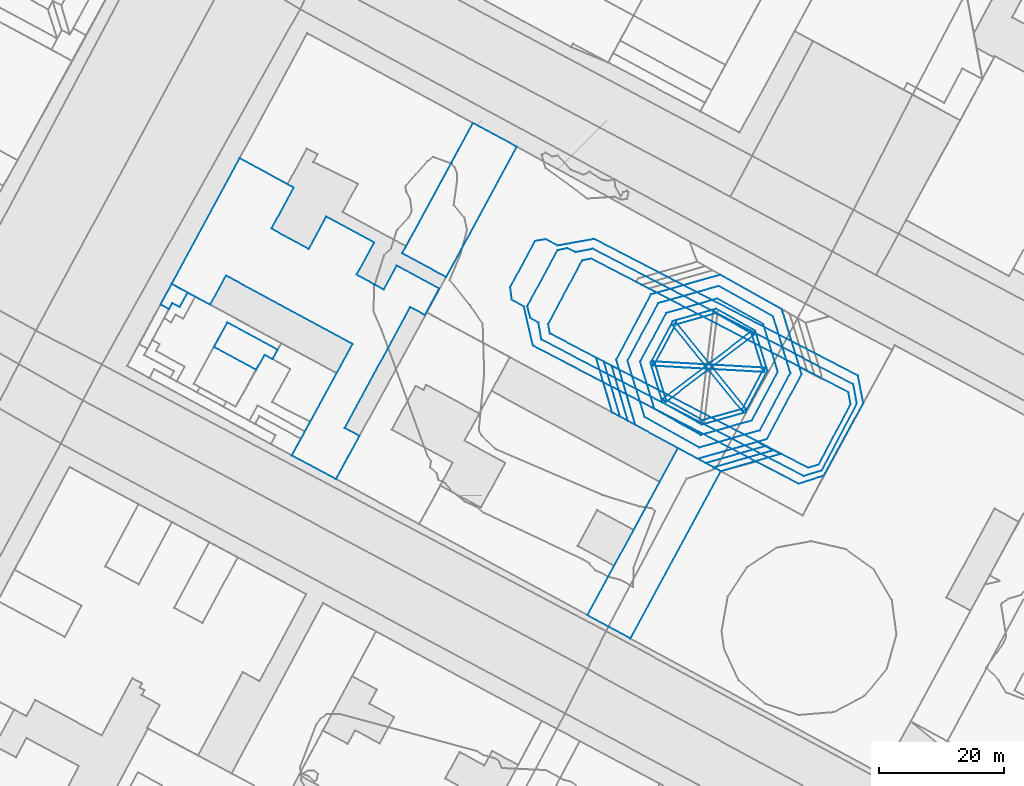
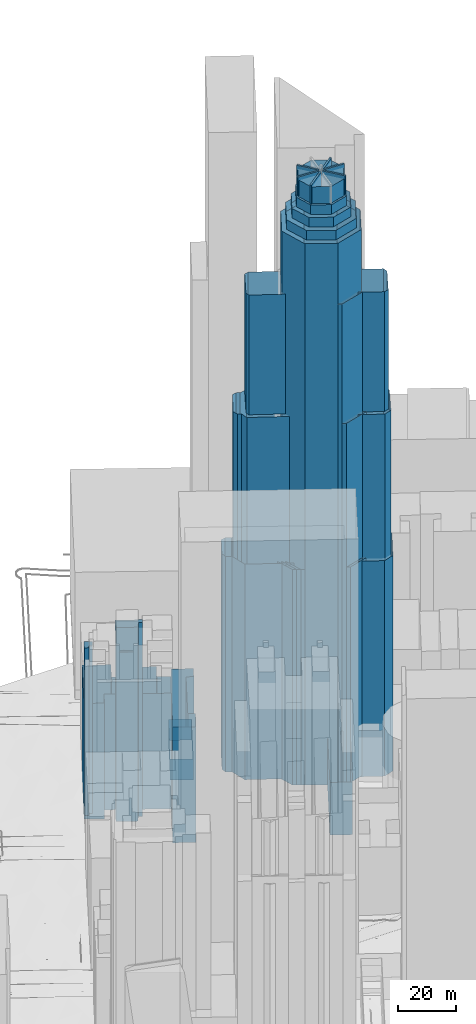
# Not in any storey, part 24 of 76: 22 walls.
"""IFC2X3 model written with IfcOpenShell, lengths in metres."""

from ifc_helpers import new_model, si_unit, frame, origin_with_axes, place, context, subcontext, project, faceted_brep, element, save


model = new_model("IFC2X3")

# Units and contexts
model_context = context("Model", 3, precision=1e-05, world=origin_with_axes())
body_context = subcontext(model_context, "Body", "Model", "MODEL_VIEW")
ifc_project = project(units=[si_unit("AREAUNIT", "SQUARE_METRE"), si_unit("LENGTHUNIT", "METRE")], contexts=[model_context])

# Walls
wall_1_placement = place(None, frame((127.1263243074, 293.3318134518, 21.914507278), z_axis=(0.0, 0.0, 1.0), x_axis=(1.0, 0.0, 0.0)))
element("IfcWall", 1, at=wall_1_placement, Name="Mur 0", context=body_context, shape_type="Brep", body=[
    faceted_brep([(6.7281427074, -3.6632865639, 81.0), (0.0, 0.0, 81.0), (6.7281427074, -3.6632865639, 0.0), (0.0, 0.0, 0.0), (8.1103198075, -1.2935485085, 81.0), (8.1103198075, -1.2935485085, 0.0), (9.3591624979, -1.9784795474, 81.0), (9.3591624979, -1.9784795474, 0.0), (10.1940852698, -0.4588713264, 81.0), (10.1940852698, -0.4588713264, 0.0), (2.1408822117, 3.9106630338, 81.0), (2.1408822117, 3.9106630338, 0.0)], [[[0, 1, 2]], [[2, 1, 3]], [[4, 0, 5]], [[5, 0, 2]], [[6, 4, 7]], [[7, 4, 5]], [[8, 6, 9]], [[9, 6, 7]], [[1, 10, 3]], [[3, 10, 11]], [[10, 8, 11]], [[11, 8, 9]]]),
])
wall_2_placement = place(None, frame((120.3576665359, 303.3895337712, 19.1918452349), z_axis=(0.0, 0.0, 1.0), x_axis=(1.0, 0.0, 0.0)))
element("IfcWall", 2, at=wall_2_placement, Name="Mur 0", context=body_context, shape_type="Brep", body=[
    faceted_brep([(6.1586360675, -3.3257392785, 48.2999992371), (0.0, 0.0, 48.2999992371), (6.1586360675, -3.3257392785, 0.0), (0.0, 0.0, 0.0), (8.6958773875, 1.3444821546, 48.2999992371), (8.6958773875, 1.3444821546, 0.0), (28.9305528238, -9.6114631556, 48.2999992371), (28.9305528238, -9.6114631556, 0.0), (19.2188748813, -27.4213141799, 48.2999992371), (19.2188748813, -27.4213141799, 0.0), (26.294638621, -31.2137773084, 48.2999992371), (26.294638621, -31.2137773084, 0.0), (30.029914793, -24.3091752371, 48.2999992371), (30.029914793, -24.3091752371, 0.0), (27.6853086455, -23.0374588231, 48.2999992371), (27.6853086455, -23.0374588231, 0.0), (38.1557868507, -3.6977675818, 48.2999992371), (38.1557868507, -3.6977675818, 0.0), (40.5002598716, -4.9583798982, 48.2999992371), (40.5002598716, -4.9583798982, 0.0), (42.7894344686, -0.7351197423, 48.2999992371), (42.7894344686, -0.7351197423, 0.0), (36.0020774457, 2.9385544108, 48.2999992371), (36.0020774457, 2.9385544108, 0.0), (33.927701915, -0.8825259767, 48.2999992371), (33.927701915, -0.8825259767, 0.0), (29.5868752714, 1.4651129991, 48.2999992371), (29.5868752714, 1.4651129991, 0.0), (32.3883820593, 6.6380157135, 48.2999992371), (32.3883820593, 6.6380157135, 0.0), (24.7261469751, 10.7789291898, 48.2999992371), (24.7261469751, 10.7789291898, 0.0), (21.9330768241, 5.6061274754, 48.2999992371), (21.9330768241, 5.6061274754, 0.0), (15.9697266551, 8.8342025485, 48.2999992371), (15.9697266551, 8.8342025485, 0.0), (19.5314868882, 15.4148184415, 48.2999992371), (19.5314868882, 15.4148184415, 0.0), (10.8837545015, 20.0994069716, 48.2999992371), (10.8837545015, 20.0994069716, 0.0)], [[[0, 1, 2]], [[2, 1, 3]], [[4, 0, 5]], [[5, 0, 2]], [[6, 4, 7]], [[7, 4, 5]], [[8, 6, 9]], [[9, 6, 7]], [[10, 8, 11]], [[11, 8, 9]], [[12, 10, 13]], [[13, 10, 11]], [[14, 12, 15]], [[15, 12, 13]], [[16, 14, 17]], [[17, 14, 15]], [[18, 16, 19]], [[19, 16, 17]], [[20, 18, 21]], [[21, 18, 19]], [[22, 20, 23]], [[23, 20, 21]], [[24, 22, 25]], [[25, 22, 23]], [[26, 24, 27]], [[27, 24, 25]], [[28, 26, 29]], [[29, 26, 27]], [[30, 28, 31]], [[31, 28, 29]], [[32, 30, 33]], [[33, 30, 31]], [[34, 32, 35]], [[35, 32, 33]], [[36, 34, 37]], [[37, 34, 35]], [[1, 38, 3]], [[3, 38, 39]], [[38, 36, 39]], [[39, 36, 37]]]),
])
wall_3_placement = place(None, frame((190.7505875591, 290.2965312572, 21.0925550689), z_axis=(0.0, 0.0, 1.0), x_axis=(1.0, 0.0, 0.0)))
element("IfcWall", 3, at=wall_3_placement, Name="Mur 0", context=body_context, shape_type="Brep", body=[
    faceted_brep([(2.5927444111, -8.8183526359, 90.0), (0.0, 0.0, 90.0), (2.5927444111, -8.8183526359, 0.0), (0.0, 0.0, 0.0), (3.7905656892, -9.4705605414, 90.0), (3.7905656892, -9.4705605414, 0.0), (1.2400209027, -0.6517176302, 90.0), (1.2400209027, -0.6517176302, 0.0)], [[[0, 1, 2]], [[2, 1, 3]], [[4, 0, 5]], [[5, 0, 2]], [[1, 6, 3]], [[3, 6, 7]], [[6, 4, 7]], [[7, 4, 5]]]),
])
wall_4_placement = place(None, frame((189.5021266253, 290.948150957, 21.1265616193), z_axis=(0.0, 0.0, 1.0), x_axis=(1.0, 0.0, 0.0)))
element("IfcWall", 4, at=wall_4_placement, Name="Mur 0", context=body_context, shape_type="Brep", body=[
    faceted_brep([(2.5839152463, -8.7851489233, 90.0), (0.0, 0.0, 90.0), (2.5839152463, -8.7851489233, 0.0), (0.0, 0.0, 0.0), (3.8412053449, -9.4699723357, 90.0), (3.8412053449, -9.4699723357, 0.0), (1.2484609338, -0.6516196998, 90.0), (1.2484609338, -0.6516196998, 0.0)], [[[0, 1, 2]], [[2, 1, 3]], [[4, 0, 5]], [[5, 0, 2]], [[1, 6, 3]], [[3, 6, 7]], [[6, 4, 7]], [[7, 4, 5]]]),
])
wall_5_placement = place(None, frame((188.2449675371, 291.6218742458, 21.1651408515), z_axis=(0.0, 0.0, 1.0), x_axis=(1.0, 0.0, 0.0)))
element("IfcWall", 5, at=wall_5_placement, Name="Mur 0", context=body_context, shape_type="Brep", body=[
    faceted_brep([(2.5839135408, -8.7851493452, 90.0), (0.0, 0.0, 90.0), (2.5839135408, -8.7851493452, 0.0), (0.0, 0.0, 0.0), (3.8410743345, -9.4588722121, 90.0), (3.8410743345, -9.4588722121, 0.0), (1.2571590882, -0.6737232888, 90.0), (1.2571590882, -0.6737232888, 0.0)], [[[0, 1, 2]], [[2, 1, 3]], [[4, 0, 5]], [[5, 0, 2]], [[1, 6, 3]], [[3, 6, 7]], [[6, 4, 7]], [[7, 4, 5]]]),
])
wall_6_placement = place(None, frame((204.4971683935, 275.4350208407, 21.6849039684), z_axis=(0.0, 0.0, 1.0), x_axis=(1.0, 0.0, 0.0)))
element("IfcWall", 6, at=wall_6_placement, Name="Mur 0", context=body_context, shape_type="Brep", body=[
    faceted_brep([(1.2741729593, -0.6846250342, 200.0), (0.0, 0.0, 200.0), (1.2741729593, -0.6846250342, 0.0), (0.0, 0.0, 0.0), (10.7814669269, 2.0238691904, 200.0), (10.7814669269, 2.0238691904, 0.0), (9.490542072, 2.6971955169, 200.0), (9.490542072, 2.6971955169, 0.0)], [[[0, 1, 2]], [[2, 1, 3]], [[4, 0, 5]], [[5, 0, 2]], [[1, 6, 3]], [[3, 6, 7]], [[6, 4, 7]], [[7, 4, 5]]]),
])
wall_7_placement = place(None, frame((205.7713413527, 274.7503958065, 21.7965636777), z_axis=(0.0, 0.0, 1.0), x_axis=(1.0, 0.0, 0.0)))
element("IfcWall", 7, at=wall_7_placement, Name="Mur 0", context=body_context, shape_type="Brep", body=[
    faceted_brep([(1.2572926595, -0.6848211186, 150.0), (0.0, 0.0, 150.0), (1.2572926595, -0.6848211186, 0.0), (0.0, 0.0, 0.0), (10.7897787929, 2.0350699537, 150.0), (10.7897787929, 2.0350699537, 0.0), (9.5072939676, 2.7084942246, 150.0), (9.5072939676, 2.7084942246, 0.0)], [[[0, 1, 2]], [[2, 1, 3]], [[4, 0, 5]], [[5, 0, 2]], [[1, 6, 3]], [[3, 6, 7]], [[6, 4, 7]], [[7, 4, 5]]]),
])
wall_8_placement = place(None, frame((207.0286340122, 274.0655746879, 21.8143831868), z_axis=(0.0, 0.0, 1.0), x_axis=(1.0, 0.0, 0.0)))
element("IfcWall", 8, at=wall_8_placement, Name="Mur 0", context=body_context, shape_type="Brep", body=[
    faceted_brep([(1.1722447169, -0.630298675, 90.0), (0.0, 0.0, 90.0), (1.1722447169, -0.630298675, 0.0), (0.0, 0.0, 0.0), (10.6620135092, 2.1335061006, 90.0), (10.6620135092, 2.1335061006, 0.0), (9.5324861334, 2.7198910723, 90.0), (9.5324861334, 2.7198910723, 0.0)], [[[0, 1, 2]], [[2, 1, 3]], [[4, 0, 5]], [[5, 0, 2]], [[1, 6, 3]], [[3, 6, 7]], [[6, 4, 7]], [[7, 4, 5]]]),
])
wall_9_placement = place(None, frame((193.2816809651, 291.1364254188, 247.2874462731), z_axis=(0.0, 0.0, 1.0), x_axis=(1.0, 0.0, 0.0)))
element("IfcWall", 9, at=wall_9_placement, Name="Mur 0", context=body_context, shape_type="Brep", body=[
    faceted_brep([(2.7471243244, -9.0274996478, 4.0), (0.0, 0.0, 4.0), (2.7471243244, -9.0274996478, 0.0), (0.0, 0.0, 0.0), (11.4476540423, -13.8890368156, 4.0), (11.4476540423, -13.8890368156, 0.0), (21.1319324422, -11.1562809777, 4.0), (21.1319324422, -11.1562809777, 0.0), (26.0391907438, -1.9620488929, 4.0), (26.0391907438, -1.9620488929, 0.0), (23.2920400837, 7.0654426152, 4.0), (23.2920400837, 7.0654426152, 0.0), (14.5913971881, 11.9380665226, 4.0), (14.5913971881, 11.9380665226, 0.0), (4.9071471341, 9.2053187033, 4.0), (4.9071471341, 9.2053187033, 0.0)], [[[0, 1, 2]], [[2, 1, 3]], [[4, 0, 5]], [[5, 0, 2]], [[6, 4, 7]], [[7, 4, 5]], [[8, 6, 9]], [[9, 6, 7]], [[10, 8, 11]], [[11, 8, 9]], [[12, 10, 13]], [[13, 10, 11]], [[1, 14, 3]], [[3, 14, 15]], [[14, 12, 15]], [[15, 12, 13]]]),
])
wall_10_placement = place(None, frame((200.4835497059, 296.8268073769, 260.0739856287), z_axis=(0.0, 0.0, 1.0), x_axis=(1.0, 0.0, 0.0)))
element("IfcWall", 10, at=wall_10_placement, Name="Mur 0", context=body_context, shape_type="Brep", body=[
    faceted_brep([(11.1849786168, -13.8032627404, 8.0), (0.0, 0.0, 8.0), (11.1849786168, -13.8032627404, 0.0), (0.0, 0.0, 0.0), (11.7370008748, -13.3638547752, 8.0), (11.7370008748, -13.3638547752, 0.0), (0.5434525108, 0.450409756, 8.0), (0.5434525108, 0.450409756, 0.0)], [[[0, 1, 2]], [[2, 1, 3]], [[4, 0, 5]], [[5, 0, 2]], [[1, 6, 3]], [[3, 6, 7]], [[6, 4, 7]], [[7, 4, 5]]]),
])
wall_11_placement = place(None, frame((198.9155746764, 285.0290795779, 259.6639688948), z_axis=(0.0, 0.0, 1.0), x_axis=(1.0, 0.0, 0.0)))
element("IfcWall", 11, at=wall_11_placement, Name="Mur 0", context=body_context, shape_type="Brep", body=[
    faceted_brep([(0.4284669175, -0.5501306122, 8.0), (0.0, 0.0, 8.0), (0.4284669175, -0.5501306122, 0.0), (0.0, 0.0, 0.0), (14.5773925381, 10.2392690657, 8.0), (14.5773925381, 10.2392690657, 0.0), (14.1487960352, 10.8004996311, 8.0), (14.1487960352, 10.8004996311, 0.0)], [[[0, 1, 2]], [[2, 1, 3]], [[4, 0, 5]], [[5, 0, 2]], [[1, 6, 3]], [[3, 6, 7]], [[6, 4, 7]], [[7, 4, 5]]]),
])
wall_12_placement = place(None, frame((197.6677213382, 290.7100275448, 259.7077898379), z_axis=(0.0, 0.0, 1.0), x_axis=(1.0, 0.0, 0.0)))
element("IfcWall", 12, at=wall_12_placement, Name="Mur 0", context=body_context, shape_type="Brep", body=[
    faceted_brep([(1.7900951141, -5.8522788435, 7.0), (0.0, 0.0, 7.0), (1.7900951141, -5.8522788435, 0.0), (0.0, 0.0, 0.0), (7.5763793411, -9.0934656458, 7.0), (7.5763793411, -9.0934656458, 0.0), (13.9625274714, -7.2983490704, 7.0), (13.9625274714, -7.2983490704, 0.0), (17.2671074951, -1.1092659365, 7.0), (17.2671074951, -1.1092659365, 0.0), (15.47687195, 4.7541101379, 7.0), (15.47687195, 4.7541101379, 0.0), (9.6905946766, 7.9952907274, 7.0), (9.6905946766, 7.9952907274, 0.0), (3.3045880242, 6.1890768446, 7.0), (3.3045880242, 6.1890768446, 0.0)], [[[0, 1, 2]], [[2, 1, 3]], [[4, 0, 5]], [[5, 0, 2]], [[6, 4, 7]], [[7, 4, 5]], [[8, 6, 9]], [[9, 6, 7]], [[10, 8, 11]], [[11, 8, 9]], [[12, 10, 13]], [[13, 10, 11]], [[1, 14, 3]], [[3, 14, 15]], [[14, 12, 15]], [[15, 12, 13]]]),
])
wall_13_placement = place(None, frame((197.3599497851, 290.3178698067, 260.1111568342), z_axis=(0.0, 0.0, 1.0), x_axis=(1.0, 0.0, 0.0)))
element("IfcWall", 13, at=wall_13_placement, Name="Mur 0", context=body_context, shape_type="Brep", body=[
    faceted_brep([(17.7976823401, -1.0031756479, 8.0), (0.0, 0.0, 8.0), (17.7976823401, -1.0031756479, 0.0), (0.0, 0.0, 0.0), (17.8317499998, -0.3033371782, 8.0), (17.8317499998, -0.3033371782, 0.0), (0.0425095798, 0.6999365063, 8.0), (0.0425095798, 0.6999365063, 0.0)], [[[0, 1, 2]], [[2, 1, 3]], [[4, 0, 5]], [[5, 0, 2]], [[1, 6, 3]], [[3, 6, 7]], [[6, 4, 7]], [[7, 4, 5]]]),
])
wall_14_placement = place(None, frame((196.9493964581, 290.7793907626, 255.631798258), z_axis=(0.0, 0.0, 1.0), x_axis=(1.0, 0.0, 0.0)))
element("IfcWall", 14, at=wall_14_placement, Name="Mur 0", context=body_context, shape_type="Brep", body=[
    faceted_brep([(1.9480859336, -6.3722479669, 4.0), (0.0, 0.0, 4.0), (1.9480859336, -6.3722479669, 0.0), (0.0, 0.0, 0.0), (8.2102521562, -9.8854576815, 4.0), (8.2102521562, -9.8854576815, 0.0), (15.134770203, -7.9286484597, 4.0), (15.134770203, -7.9286484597, 0.0), (18.7037575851, -1.2479906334, 4.0), (18.7037575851, -1.2479906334, 0.0), (16.7555291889, 5.1353539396, 4.0), (16.7555291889, 5.1353539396, 0.0), (10.4935002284, 8.6374556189, 4.0), (10.4935002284, 8.6374556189, 0.0), (3.5688676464, 6.6917512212, 4.0), (3.5688676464, 6.6917512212, 0.0)], [[[0, 1, 2]], [[2, 1, 3]], [[4, 0, 5]], [[5, 0, 2]], [[6, 4, 7]], [[7, 4, 5]], [[8, 6, 9]], [[9, 6, 7]], [[10, 8, 11]], [[11, 8, 9]], [[12, 10, 13]], [[13, 10, 11]], [[1, 14, 3]], [[3, 14, 15]], [[14, 12, 15]], [[15, 12, 13]]]),
])
wall_15_placement = place(None, frame((195.292913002, 290.9488680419, 251.4761187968), z_axis=(0.0, 0.0, 1.0), x_axis=(1.0, 0.0, 0.0)))
element("IfcWall", 15, at=wall_15_placement, Name="Mur 0", context=body_context, shape_type="Brep", body=[
    faceted_brep([(2.308204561, -7.5782069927, 4.0), (0.0, 0.0, 4.0), (2.308204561, -7.5782069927, 0.0), (0.0, 0.0, 0.0), (9.6747051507, -11.6891998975, 4.0), (9.6747051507, -11.6891998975, 0.0), (17.8446396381, -9.3959413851, 4.0), (17.8446396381, -9.3959413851, 0.0), (22.0165962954, -1.5758398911, 4.0), (22.0165962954, -1.5758398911, 0.0), (19.7083730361, 6.0023613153, 4.0), (19.7083730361, 6.0023613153, 0.0), (12.3418838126, 10.1133441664, 4.0), (12.3418838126, 10.1133441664, 0.0), (4.1720986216, 7.8089905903, 4.0), (4.1720986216, 7.8089905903, 0.0)], [[[0, 1, 2]], [[2, 1, 3]], [[4, 0, 5]], [[5, 0, 2]], [[6, 4, 7]], [[7, 4, 5]], [[8, 6, 9]], [[9, 6, 7]], [[10, 8, 11]], [[11, 8, 9]], [[12, 10, 13]], [[13, 10, 11]], [[1, 14, 3]], [[3, 14, 15]], [[14, 12, 15]], [[15, 12, 13]]]),
])
wall_16_placement = place(None, frame((191.4815843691, 291.3153359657, 21.0925550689), z_axis=(0.0, 0.0, 1.0), x_axis=(1.0, 0.0, 0.0)))
element("IfcWall", 16, at=wall_16_placement, Name="Mur 0", context=body_context, shape_type="Brep", body=[
    faceted_brep([(3.0595688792, -10.4893652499, 226.0), (0.0, 0.0, 226.0), (3.0595688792, -10.4893652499, 0.0), (0.0, 0.0, 0.0), (13.0155840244, -15.880315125, 226.0), (13.0155840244, -15.880315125, 0.0), (24.0711095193, -12.7430327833, 226.0), (24.0711095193, -12.7430327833, 0.0), (29.6392561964, -2.3087624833, 226.0), (29.6392561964, -2.3087624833, 0.0), (26.4887462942, 8.0130012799, 226.0), (26.4887462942, 8.0130012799, 0.0), (16.6070361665, 13.549126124, 226.0), (16.6070361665, 13.549126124, 0.0), (5.568169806, 10.4342520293, 226.0), (5.568169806, 10.4342520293, 0.0)], [[[0, 1, 2]], [[2, 1, 3]], [[4, 0, 5]], [[5, 0, 2]], [[6, 4, 7]], [[7, 4, 5]], [[8, 6, 9]], [[9, 6, 7]], [[10, 8, 11]], [[11, 8, 9]], [[12, 10, 13]], [[13, 10, 11]], [[1, 14, 3]], [[3, 14, 15]], [[14, 12, 15]], [[15, 12, 13]]]),
])
wall_17_placement = place(None, frame((174.515196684, 302.8642732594, 21.3701181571), z_axis=(0.0, 0.0, 1.0), x_axis=(1.0, 0.0, 0.0)))
element("IfcWall", 17, at=wall_17_placement, Name="Mur 0", context=body_context, shape_type="Brep", body=[
    faceted_brep([(0.2596837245, -2.0064896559, 90.0), (0.0, 0.0, 90.0), (0.2596837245, -2.0064896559, 0.0), (0.0, 0.0, 0.0), (2.2055322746, -3.1051971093, 90.0), (2.2055322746, -3.1051971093, 0.0), (3.6457642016, -9.3612290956, 90.0), (3.6457642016, -9.3612290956, 0.0), (46.1429906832, -31.4157509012, 90.0), (46.1429906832, -31.4157509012, 0.0), (50.1375301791, -30.1147343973, 90.0), (50.1375301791, -30.1147343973, 0.0), (56.4684852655, -18.4947444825, 90.0), (56.4684852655, -18.4947444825, 0.0), (55.6076025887, -14.152673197, 90.0), (55.6076025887, -14.152673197, 0.0), (13.4416773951, 7.7280088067, 90.0), (13.4416773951, 7.7280088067, 0.0), (7.5533148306, 6.6825504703, 90.0), (7.5533148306, 6.6825504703, 0.0), (5.6591417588, 7.693039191, 90.0), (5.6591417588, 7.693039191, 0.0), (3.9490017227, 7.3956015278, 90.0), (3.9490017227, 7.3956015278, 0.0)], [[[0, 1, 2]], [[2, 1, 3]], [[4, 0, 5]], [[5, 0, 2]], [[6, 4, 7]], [[7, 4, 5]], [[8, 6, 9]], [[9, 6, 7]], [[10, 8, 11]], [[11, 8, 9]], [[12, 10, 13]], [[13, 10, 11]], [[14, 12, 15]], [[15, 12, 13]], [[16, 14, 17]], [[17, 14, 15]], [[18, 16, 19]], [[19, 16, 17]], [[20, 18, 21]], [[21, 18, 19]], [[1, 22, 3]], [[3, 22, 23]], [[22, 20, 23]], [[23, 20, 21]]]),
])
wall_18_placement = place(None, frame((177.2431205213, 299.8428648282, 43.5388270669), z_axis=(0.0, 0.0, 1.0), x_axis=(1.0, 0.0, 0.0)))
element("IfcWall", 18, at=wall_18_placement, Name="Mur 0", context=body_context, shape_type="Brep", body=[
    faceted_brep([(0.5291270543, -1.9478459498, 128.0), (0.0, 0.0, 128.0), (0.5291270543, -1.9478459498, 0.0), (0.0, 0.0, 0.0), (1.7866712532, -2.6548732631, 128.0), (1.7866712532, -2.6548732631, 0.0), (2.2654927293, -5.358257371, 128.0), (2.2654927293, -5.358257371, 0.0), (44.1689292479, -27.1643259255, 128.0), (44.1689292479, -27.1643259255, 0.0), (47.0793212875, -26.2756005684, 128.0), (47.0793212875, -26.2756005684, 0.0), (52.7120119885, -15.5852207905, 128.0), (52.7120119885, -15.5852207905, 0.0), (52.1358092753, -12.4943931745, 128.0), (52.1358092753, -12.4943931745, 0.0), (10.4871850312, 9.1813647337, 128.0), (10.4871850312, 9.1813647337, 0.0), (7.7499180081, 8.6499384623, 128.0), (7.7499180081, 8.6499384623, 0.0), (6.3919957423, 9.2780819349, 128.0), (6.3919957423, 9.2780819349, 0.0), (4.8257265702, 8.9490093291, 128.0), (4.8257265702, 8.9490093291, 0.0)], [[[0, 1, 2]], [[2, 1, 3]], [[4, 0, 5]], [[5, 0, 2]], [[6, 4, 7]], [[7, 4, 5]], [[8, 6, 9]], [[9, 6, 7]], [[10, 8, 11]], [[11, 8, 9]], [[12, 10, 13]], [[13, 10, 11]], [[14, 12, 15]], [[15, 12, 13]], [[16, 14, 17]], [[17, 14, 15]], [[18, 16, 19]], [[19, 16, 17]], [[20, 18, 21]], [[21, 18, 19]], [[1, 22, 3]], [[3, 22, 23]], [[22, 20, 23]], [[23, 20, 21]]]),
])
wall_19_placement = place(None, frame((180.6026452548, 296.9509249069, 171.5778831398), z_axis=(0.0, 0.0, 1.0), x_axis=(1.0, 0.0, 0.0)))
element("IfcWall", 19, at=wall_19_placement, Name="Mur 0", context=body_context, shape_type="Brep", body=[
    faceted_brep([(0.2620602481, -1.4846557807, 50.0), (0.0, 0.0, 50.0), (0.2620602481, -1.4846557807, 0.0), (0.0, 0.0, 0.0), (41.5201615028, -22.9651549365, 50.0), (41.5201615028, -22.9651549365, 0.0), (43.2446066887, -22.4454958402, 50.0), (43.2446066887, -22.4454958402, 0.0), (48.3487420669, -12.7604679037, 50.0), (48.3487420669, -12.7604679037, 0.0), (47.9978790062, -10.8993697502, 50.0), (47.9978790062, -10.8993697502, 0.0), (6.8926514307, 10.5051540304, 50.0), (6.8926514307, 10.5051540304, 0.0), (5.3850764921, 10.2100697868, 50.0), (5.3850764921, 10.2100697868, 0.0)], [[[0, 1, 2]], [[2, 1, 3]], [[4, 0, 5]], [[5, 0, 2]], [[6, 4, 7]], [[7, 4, 5]], [[8, 6, 9]], [[9, 6, 7]], [[10, 8, 11]], [[11, 8, 9]], [[12, 10, 13]], [[13, 10, 11]], [[1, 14, 3]], [[3, 14, 15]], [[14, 12, 15]], [[15, 12, 13]]]),
])
wall_20_placement = place(None, frame((186.8584894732, 250.4163826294, 21.3845065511), z_axis=(0.0, 0.0, 1.0), x_axis=(1.0, 0.0, 0.0)))
element("IfcWall", 20, at=wall_20_placement, Name="Mur 0", context=body_context, shape_type="Brep", body=[
    faceted_brep([(6.8724714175, -3.7281693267, 22.0), (0.0, 0.0, 22.0), (6.8724714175, -3.7281693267, 0.0), (0.0, 0.0, 0.0), (21.3423892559, 23.0188933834, 22.0), (21.3423892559, 23.0188933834, 0.0), (14.4700635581, 26.7359484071, 22.0), (14.4700635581, 26.7359484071, 0.0)], [[[0, 1, 2]], [[2, 1, 3]], [[4, 0, 5]], [[5, 0, 2]], [[1, 6, 3]], [[3, 6, 7]], [[6, 4, 7]], [[7, 4, 5]]]),
])
wall_21_placement = place(None, frame((157.2485817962, 308.2924157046, 19.5637782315), z_axis=(0.0, 0.0, 1.0), x_axis=(1.0, 0.0, 0.0)))
element("IfcWall", 21, at=wall_21_placement, Name="Mur 0", context=body_context, shape_type="Brep", body=[
    faceted_brep([(7.0337999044, -3.8151381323, 8.8000001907), (0.0, 0.0, 8.8000001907), (7.0337999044, -3.8151381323, 0.0), (0.0, 0.0, 0.0), (18.3222304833, 17.0439945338, 8.8000001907), (18.3222304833, 17.0439945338, 0.0), (11.288572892, 20.8480210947, 8.8000001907), (11.288572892, 20.8480210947, 0.0)], [[[0, 1, 2]], [[2, 1, 3]], [[4, 0, 5]], [[5, 0, 2]], [[1, 6, 3]], [[3, 6, 7]], [[6, 4, 7]], [[7, 4, 5]]]),
])
wall_22_placement = place(None, frame((118.5811882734, 300.0826284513, 23.3439021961), z_axis=(0.0, 0.0, 1.0), x_axis=(1.0, 0.0, 0.0)))
element("IfcWall", 22, at=wall_22_placement, Name="Mur 0", context=body_context, shape_type="Brep", body=[
    faceted_brep([(1.3506384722, -0.7281601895, 70.0), (0.0, 0.0, 70.0), (1.3506384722, -0.7281601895, 0.0), (0.0, 0.0, 0.0), (1.8710248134, 0.2548837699, 70.0), (1.8710248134, 0.2548837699, 0.0), (3.0602671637, -0.3863330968, 70.0), (3.0602671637, -0.3863330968, 0.0), (4.3418081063, 1.9267222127, 70.0), (4.3418081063, 1.9267222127, 0.0), (1.7764782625, 3.3069053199, 70.0), (1.7764782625, 3.3069053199, 0.0)], [[[0, 1, 2]], [[2, 1, 3]], [[4, 0, 5]], [[5, 0, 2]], [[6, 4, 7]], [[7, 4, 5]], [[8, 6, 9]], [[9, 6, 7]], [[1, 10, 3]], [[3, 10, 11]], [[10, 8, 11]], [[11, 8, 9]]]),
])

save(model, "model.ifc")
